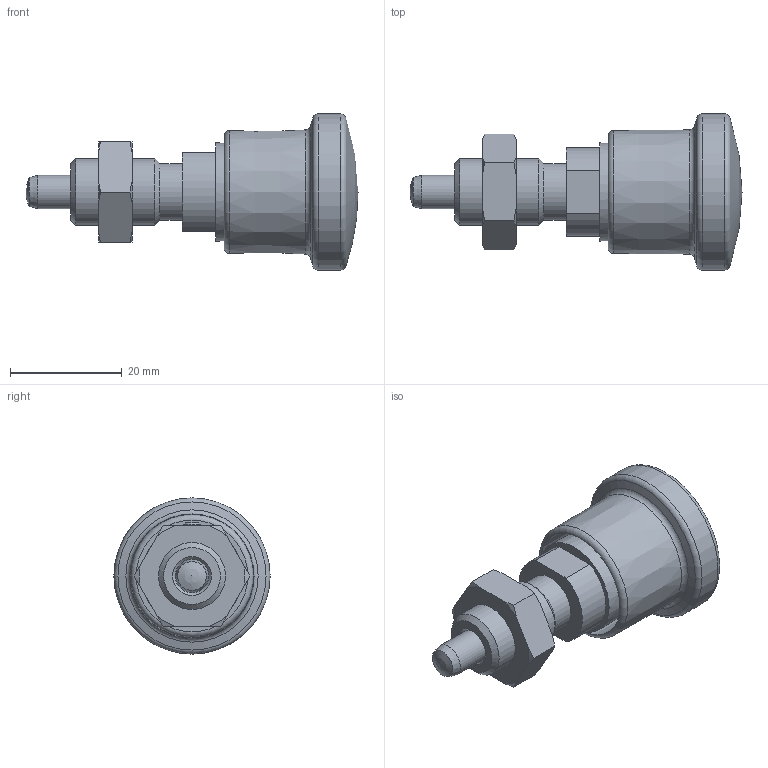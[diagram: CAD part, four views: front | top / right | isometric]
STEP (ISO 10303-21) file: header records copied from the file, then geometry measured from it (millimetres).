
FILE_DESCRIPTION( ( 'STEP AP203' ), '1' );
FILE_NAME( 'C:/Temp/Ganter_Step_05_03_2020/data/3_1/gn816_1/gn_816_1_ark/Locking plunger GN 816.1-6-M12x1,5-ARK (activated).stp', '2020-03-12T08:56:15', ( 'License CC BY-ND 4.0' ), ( 'CADENAS' ), ' ', 'PARTsolutions', ' ' );
FILE_SCHEMA( ( 'CONFIG_CONTROL_DESIGN' ) );
Length unit declared in the file: millimetre
Products named in the file (4): Locking plunger GN 816.1-6-M12x1,5-ARK (activated); _GN 816.1-6-M12x1,5-AR (activated)-2; _GN 816.1-6-M12x1,5-AR (activated)-1; _Lock nut ISO 8675 GN 816-6-M12x1,5-AK
Assembly tree (3 placements, depth 2):
  Locking plunger GN 816.1-6-M12x1,5-ARK (activated)
    _GN 816.1-6-M12x1,5-AR (activated)-2
    _GN 816.1-6-M12x1,5-AR (activated)-1
    _Lock nut ISO 8675 GN 816-6-M12x1,5-AK
Bounding box: 59.5 x 28 x 28 mm (x, y, z)
Volume: 12467.6 mm3; surface area: 9926.4 mm2
Topology: 3 solids, 3 shells, 74 faces, 163 edges, 102 vertices
Faces by surface type: cone 27, plane 22, cylinder 17, torus 6, sphere 2
Full cylindrical faces by diameter (mm): 2.9 x2, 3 x2, 6 x2, 8 x1, 8.1 x1, 10.2 x1, 10.376 x1, 11.1 x1, 12 x1, 18.2 x1, 20.017 x1, 28 x1
Entity records: 2239 total; most frequent: CARTESIAN_POINT 660, DIRECTION 304, ORIENTED_EDGE 234, AXIS2_PLACEMENT_3D 139, EDGE_LOOP 128, EDGE_CURVE 117, VERTEX_POINT 97, FACE_OUTER_BOUND 95
